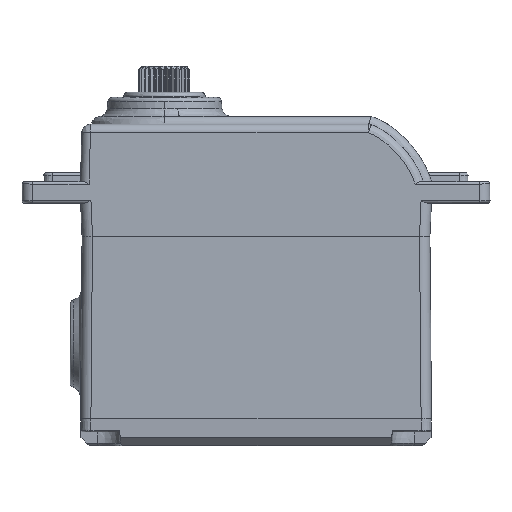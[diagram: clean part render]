
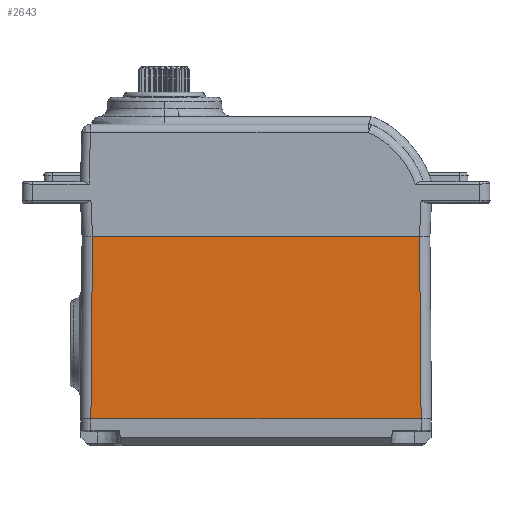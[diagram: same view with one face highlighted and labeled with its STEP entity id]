
A CAD part, left-side view. The second image highlights one B-rep face of the part: STEP entity #2643.
In plain terms, the highlighted planar face has unit normal (-1, 0, 0.009).
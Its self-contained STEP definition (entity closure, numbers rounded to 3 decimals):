
#572 = CARTESIAN_POINT ( 'NONE',  ( 100.223, -41.793, -5.5 ) ) ;
#713 = ORIENTED_EDGE ( 'NONE', *, *, #26572, .T. ) ;
#952 = LINE ( 'NONE', #14997, #4210 ) ;
#2643 = ADVANCED_FACE ( 'NONE', ( #14465 ), #15405, .T. ) ;
#3050 = VECTOR ( 'NONE', #27137, 1000. ) ;
#3219 = DIRECTION ( 'NONE',  ( 0., 1., 0. ) ) ;
#4210 = VECTOR ( 'NONE', #3219, 1000. ) ;
#4937 = LINE ( 'NONE', #21392, #3050 ) ;
#5687 = ORIENTED_EDGE ( 'NONE', *, *, #21084, .T. ) ;
#5953 = AXIS2_PLACEMENT_3D ( 'NONE', #16257, #10358, #34265 ) ;
#10238 = CARTESIAN_POINT ( 'NONE',  ( 100.223, -79.527, -5.5 ) ) ;
#10358 = DIRECTION ( 'NONE',  ( -1., 0., 0.009 ) ) ;
#11840 = VERTEX_POINT ( 'NONE', #14527 ) ;
#13174 = ORIENTED_EDGE ( 'NONE', *, *, #23756, .T. ) ;
#14180 = EDGE_CURVE ( 'NONE', #28542, #30657, #17567, .T. ) ;
#14465 = FACE_OUTER_BOUND ( 'NONE', #26752, .T. ) ;
#14527 = CARTESIAN_POINT ( 'NONE',  ( 100.04, -79.71, -26.5 ) ) ;
#14713 = VECTOR ( 'NONE', #30492, 1000. ) ;
#14997 = CARTESIAN_POINT ( 'NONE',  ( 100.223, -60.66, -5.5 ) ) ;
#15405 = PLANE ( 'NONE',  #5953 ) ;
#16257 = CARTESIAN_POINT ( 'NONE',  ( 100.04, -60.66, -26.5 ) ) ;
#17567 = LINE ( 'NONE', #26389, #14713 ) ;
#21084 = EDGE_CURVE ( 'NONE', #25668, #28542, #952, .T. ) ;
#21392 = CARTESIAN_POINT ( 'NONE',  ( 100.04, -60.66, -26.5 ) ) ;
#23756 = EDGE_CURVE ( 'NONE', #30657, #11840, #4937, .T. ) ;
#25668 = VERTEX_POINT ( 'NONE', #10238 ) ;
#26389 = CARTESIAN_POINT ( 'NONE',  ( 100.223, -41.793, -5.5 ) ) ;
#26572 = EDGE_CURVE ( 'NONE', #11840, #25668, #34638, .T. ) ;
#26752 = EDGE_LOOP ( 'NONE', ( #5687, #27729, #13174, #713 ) ) ;
#27137 = DIRECTION ( 'NONE',  ( 0., -1., 0. ) ) ;
#27729 = ORIENTED_EDGE ( 'NONE', *, *, #14180, .T. ) ;
#28006 = DIRECTION ( 'NONE',  ( 0.009, 0.009, 1. ) ) ;
#28542 = VERTEX_POINT ( 'NONE', #572 ) ;
#30492 = DIRECTION ( 'NONE',  ( -0.009, 0.009, -1. ) ) ;
#30657 = VERTEX_POINT ( 'NONE', #34457 ) ;
#33688 = VECTOR ( 'NONE', #28006, 1000. ) ;
#33823 = CARTESIAN_POINT ( 'NONE',  ( 100.04, -79.71, -26.5 ) ) ;
#34265 = DIRECTION ( 'NONE',  ( 0.009, 0., 1. ) ) ;
#34457 = CARTESIAN_POINT ( 'NONE',  ( 100.04, -41.61, -26.5 ) ) ;
#34638 = LINE ( 'NONE', #33823, #33688 ) ;
